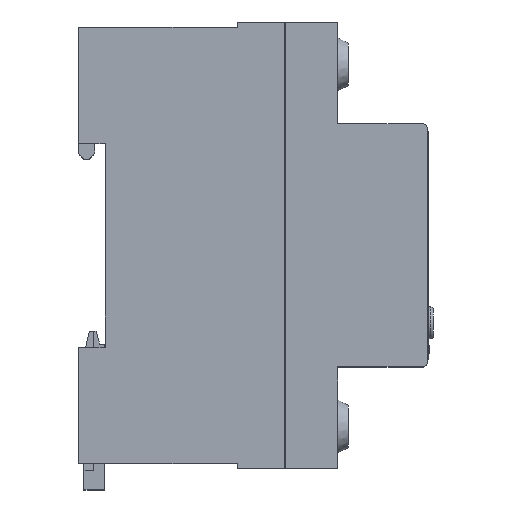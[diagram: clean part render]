
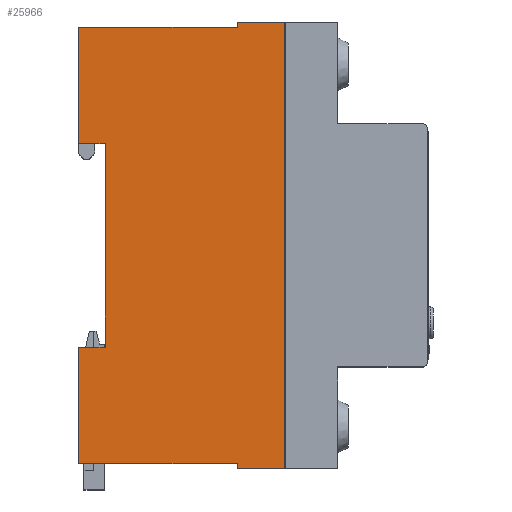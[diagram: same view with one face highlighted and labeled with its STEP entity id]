
A CAD part, top view. The second image highlights one B-rep face of the part: STEP entity #25966.
In plain terms, the highlighted planar face has unit normal (0, 0, 1).
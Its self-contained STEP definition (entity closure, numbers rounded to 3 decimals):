
#25014 = VERTEX_POINT('',#25015);
#25015 = CARTESIAN_POINT('',(0.,1.,36.5));
#25021 = EDGE_CURVE('',#25014,#25022,#25024,.T.);
#25022 = VERTEX_POINT('',#25023);
#25023 = CARTESIAN_POINT('',(30.,1.,36.5));
#25024 = LINE('',#25025,#25026);
#25025 = CARTESIAN_POINT('',(0.,1.,36.5));
#25026 = VECTOR('',#25027,1.);
#25027 = DIRECTION('',(1.,0.,0.));
#25580 = VERTEX_POINT('',#25581);
#25581 = CARTESIAN_POINT('',(39.,0.,36.5));
#25587 = EDGE_CURVE('',#25580,#25588,#25590,.T.);
#25588 = VERTEX_POINT('',#25589);
#25589 = CARTESIAN_POINT('',(39.,84.5,36.5));
#25590 = LINE('',#25591,#25592);
#25591 = CARTESIAN_POINT('',(39.,48.387,36.5));
#25592 = VECTOR('',#25593,1.);
#25593 = DIRECTION('',(0.,1.,-0.));
#25649 = EDGE_CURVE('',#25650,#25652,#25654,.T.);
#25650 = VERTEX_POINT('',#25651);
#25651 = CARTESIAN_POINT('',(5.,61.5,36.5));
#25652 = VERTEX_POINT('',#25653);
#25653 = CARTESIAN_POINT('',(5.,23.,36.5));
#25654 = LINE('',#25655,#25656);
#25655 = CARTESIAN_POINT('',(5.,61.5,36.5));
#25656 = VECTOR('',#25657,1.);
#25657 = DIRECTION('',(0.,-1.,0.));
#25744 = EDGE_CURVE('',#25745,#25022,#25747,.T.);
#25745 = VERTEX_POINT('',#25746);
#25746 = CARTESIAN_POINT('',(30.,0.,36.5));
#25747 = LINE('',#25748,#25749);
#25748 = CARTESIAN_POINT('',(30.,0.,36.5));
#25749 = VECTOR('',#25750,1.);
#25750 = DIRECTION('',(0.,1.,0.));
#25889 = VERTEX_POINT('',#25890);
#25890 = CARTESIAN_POINT('',(0.,23.,36.5));
#25898 = EDGE_CURVE('',#25014,#25889,#25899,.T.);
#25899 = LINE('',#25900,#25901);
#25900 = CARTESIAN_POINT('',(0.,0.,36.5));
#25901 = VECTOR('',#25902,1.);
#25902 = DIRECTION('',(0.,1.,0.));
#25966 = ADVANCED_FACE('',(#25967),#26024,.F.);
#25967 = FACE_BOUND('',#25968,.F.);
#25968 = EDGE_LOOP('',(#25969,#25970,#25976,#25977,#25978,#25979,#25985,
    #25986,#25994,#26002,#26010,#26018));
#25969 = ORIENTED_EDGE('',*,*,#25587,.F.);
#25970 = ORIENTED_EDGE('',*,*,#25971,.T.);
#25971 = EDGE_CURVE('',#25580,#25745,#25972,.T.);
#25972 = LINE('',#25973,#25974);
#25973 = CARTESIAN_POINT('',(66.,0.,36.5));
#25974 = VECTOR('',#25975,1.);
#25975 = DIRECTION('',(-1.,0.,0.));
#25976 = ORIENTED_EDGE('',*,*,#25744,.T.);
#25977 = ORIENTED_EDGE('',*,*,#25021,.F.);
#25978 = ORIENTED_EDGE('',*,*,#25898,.T.);
#25979 = ORIENTED_EDGE('',*,*,#25980,.T.);
#25980 = EDGE_CURVE('',#25889,#25652,#25981,.T.);
#25981 = LINE('',#25982,#25983);
#25982 = CARTESIAN_POINT('',(0.,23.,36.5));
#25983 = VECTOR('',#25984,1.);
#25984 = DIRECTION('',(1.,0.,0.));
#25985 = ORIENTED_EDGE('',*,*,#25649,.F.);
#25986 = ORIENTED_EDGE('',*,*,#25987,.F.);
#25987 = EDGE_CURVE('',#25988,#25650,#25990,.T.);
#25988 = VERTEX_POINT('',#25989);
#25989 = CARTESIAN_POINT('',(0.,61.5,36.5));
#25990 = LINE('',#25991,#25992);
#25991 = CARTESIAN_POINT('',(0.,61.5,36.5));
#25992 = VECTOR('',#25993,1.);
#25993 = DIRECTION('',(1.,0.,0.));
#25994 = ORIENTED_EDGE('',*,*,#25995,.T.);
#25995 = EDGE_CURVE('',#25988,#25996,#25998,.T.);
#25996 = VERTEX_POINT('',#25997);
#25997 = CARTESIAN_POINT('',(0.,83.5,36.5));
#25998 = LINE('',#25999,#26000);
#25999 = CARTESIAN_POINT('',(0.,0.,36.5));
#26000 = VECTOR('',#26001,1.);
#26001 = DIRECTION('',(0.,1.,0.));
#26002 = ORIENTED_EDGE('',*,*,#26003,.F.);
#26003 = EDGE_CURVE('',#26004,#25996,#26006,.T.);
#26004 = VERTEX_POINT('',#26005);
#26005 = CARTESIAN_POINT('',(30.,83.5,36.5));
#26006 = LINE('',#26007,#26008);
#26007 = CARTESIAN_POINT('',(30.,83.5,36.5));
#26008 = VECTOR('',#26009,1.);
#26009 = DIRECTION('',(-1.,0.,0.));
#26010 = ORIENTED_EDGE('',*,*,#26011,.F.);
#26011 = EDGE_CURVE('',#26012,#26004,#26014,.T.);
#26012 = VERTEX_POINT('',#26013);
#26013 = CARTESIAN_POINT('',(30.,84.5,36.5));
#26014 = LINE('',#26015,#26016);
#26015 = CARTESIAN_POINT('',(30.,84.5,36.5));
#26016 = VECTOR('',#26017,1.);
#26017 = DIRECTION('',(0.,-1.,0.));
#26018 = ORIENTED_EDGE('',*,*,#26019,.T.);
#26019 = EDGE_CURVE('',#26012,#25588,#26020,.T.);
#26020 = LINE('',#26021,#26022);
#26021 = CARTESIAN_POINT('',(0.,84.5,36.5));
#26022 = VECTOR('',#26023,1.);
#26023 = DIRECTION('',(1.,0.,0.));
#26024 = PLANE('',#26025);
#26025 = AXIS2_PLACEMENT_3D('',#26026,#26027,#26028);
#26026 = CARTESIAN_POINT('',(33.,42.25,36.5));
#26027 = DIRECTION('',(-0.,-0.,-1.));
#26028 = DIRECTION('',(-1.,0.,0.));
